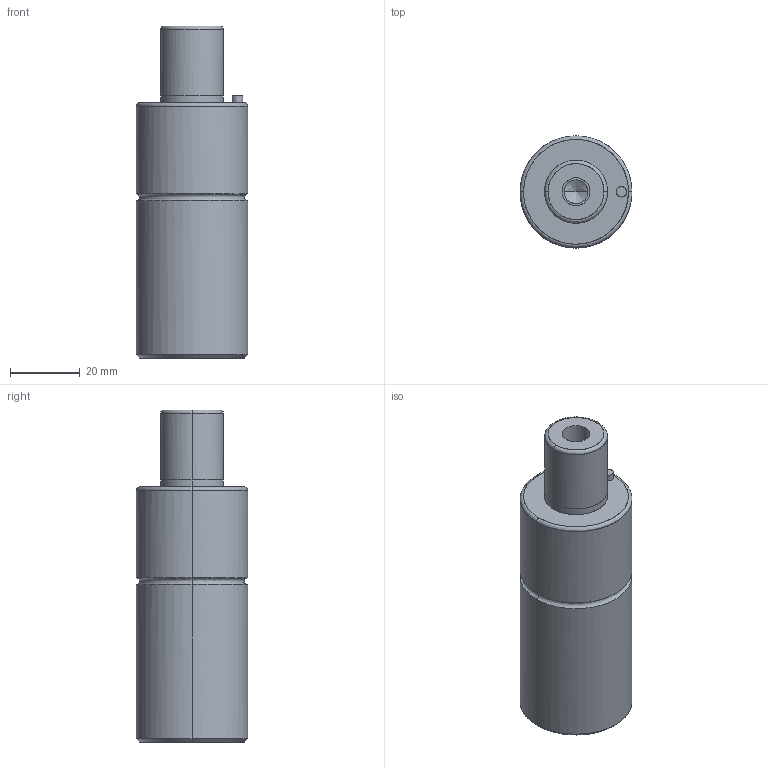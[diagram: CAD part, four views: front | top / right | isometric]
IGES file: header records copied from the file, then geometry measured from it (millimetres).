
Global section: file name: E:\UnigraphicsGraphicData\MISUMI_PRESS-PARTS\IGES\3d_gsm32-20_03900_r00.igs; native system: NX V5.0; preprocessor: UGS NX IGES V5.0; author: MISUMI; date: 20110105.160809; units: millimetre
Bounding box: 32 x 32 x 95 mm (x, y, z)
Surface area: 11048.9 mm2 (no closed solid volume)
Topology: 0 solids, 0 shells, 50 faces, 328 edges, 320 vertices
Faces by surface type: bspline 50
